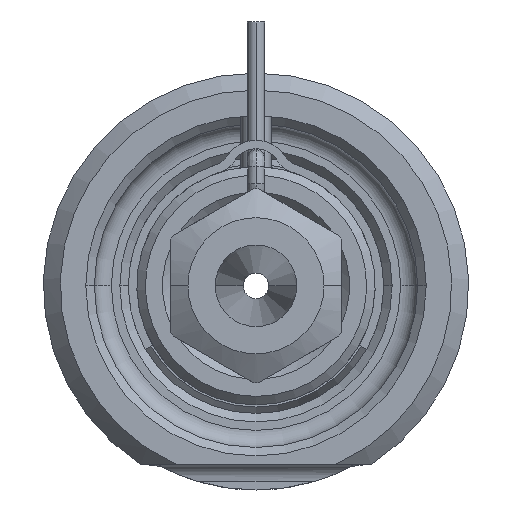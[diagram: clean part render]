
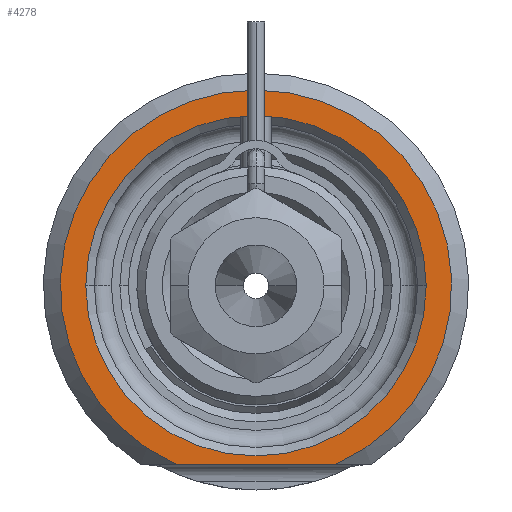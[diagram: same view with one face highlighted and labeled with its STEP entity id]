
A CAD part, front view. The second image highlights one B-rep face of the part: STEP entity #4278.
In plain terms, the highlighted planar face has unit normal (0, -1, 0).
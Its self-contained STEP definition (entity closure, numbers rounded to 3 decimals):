
#1386=CARTESIAN_POINT('',(0.,0.,0.));
#1387=DIRECTION('',(0.,-1.,0.));
#1388=DIRECTION('',(0.408,0.,-0.913));
#1389=AXIS2_PLACEMENT_3D('',#1386,#1387,#1388);
#1410=DIRECTION('',(1.,0.,0.));
#1411=VECTOR('',#1410,9.381);
#1412=CARTESIAN_POINT('',(-4.69,0.,-10.5));
#1413=LINE('',#1412,#1411);
#1414=CARTESIAN_POINT('',(0.,0.,0.));
#1415=DIRECTION('',(0.,1.,0.));
#1416=DIRECTION('',(-1.,0.,0.));
#1417=AXIS2_PLACEMENT_3D('',#1414,#1415,#1416);
#1419=CARTESIAN_POINT('',(0.,0.,0.));
#1420=DIRECTION('',(0.,1.,0.));
#1421=DIRECTION('',(1.,0.,0.));
#1422=AXIS2_PLACEMENT_3D('',#1419,#1420,#1421);
#2368=CARTESIAN_POINT('',(-10.,0.,0.));
#2369=CARTESIAN_POINT('',(10.,0.,0.));
#2370=VERTEX_POINT('',#2368);
#2371=VERTEX_POINT('',#2369);
#2412=CARTESIAN_POINT('',(-4.69,0.,-10.5));
#2413=CARTESIAN_POINT('',(4.69,0.,-10.5));
#2414=VERTEX_POINT('',#2412);
#2415=VERTEX_POINT('',#2413);
#4263=CARTESIAN_POINT('',(0.,0.,0.));
#4264=DIRECTION('',(0.,-1.,0.));
#4265=DIRECTION('',(1.,0.,0.));
#4266=AXIS2_PLACEMENT_3D('',#4263,#4264,#4265);
#4267=PLANE('',#4266);
#4268=ORIENTED_EDGE('',*,*,#4198,.F.);
#4269=ORIENTED_EDGE('',*,*,#4255,.F.);
#4270=EDGE_LOOP('',(#4268,#4269));
#4271=FACE_OUTER_BOUND('',#4270,.F.);
#4273=ORIENTED_EDGE('',*,*,#4272,.F.);
#4275=ORIENTED_EDGE('',*,*,#4274,.F.);
#4276=EDGE_LOOP('',(#4273,#4275));
#4277=FACE_BOUND('',#4276,.F.);
#4278=ADVANCED_FACE('',(#4271,#4277),#4267,.T.);
#1390=CIRCLE('',#1389,11.5);
#1418=CIRCLE('',#1417,10.);
#1423=CIRCLE('',#1422,10.);
#4198=EDGE_CURVE('',#2414,#2415,#1413,.T.);
#4255=EDGE_CURVE('',#2415,#2414,#1390,.T.);
#4272=EDGE_CURVE('',#2370,#2371,#1418,.T.);
#4274=EDGE_CURVE('',#2371,#2370,#1423,.T.);
